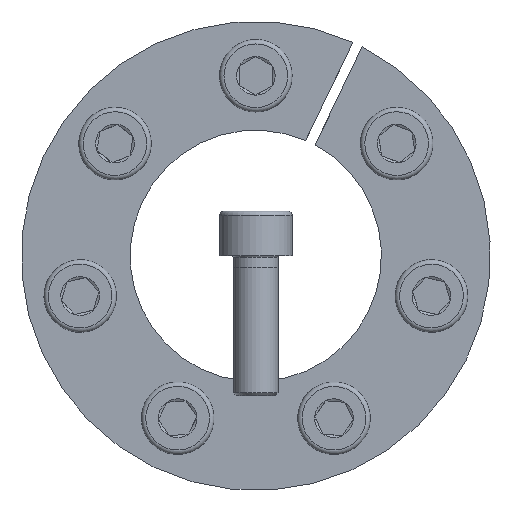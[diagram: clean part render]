
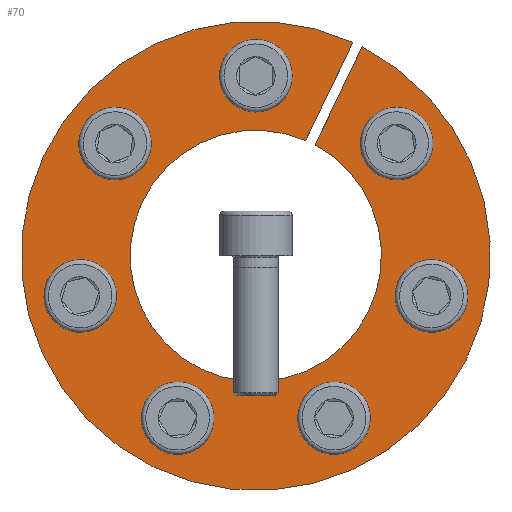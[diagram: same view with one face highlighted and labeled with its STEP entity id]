
A CAD part, front view. The second image highlights one B-rep face of the part: STEP entity #70.
In plain terms, the highlighted planar face has unit normal (0, -1, 0).
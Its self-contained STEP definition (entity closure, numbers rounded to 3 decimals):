
#70 = ADVANCED_FACE( '', ( #154, #155, #156, #157, #158, #159, #160, #161 ), #162, .F. );
#154 = FACE_BOUND( '', #302, .T. );
#155 = FACE_BOUND( '', #303, .T. );
#156 = FACE_BOUND( '', #304, .T. );
#157 = FACE_BOUND( '', #305, .T. );
#158 = FACE_BOUND( '', #306, .T. );
#159 = FACE_BOUND( '', #307, .T. );
#160 = FACE_BOUND( '', #308, .T. );
#161 = FACE_OUTER_BOUND( '', #309, .T. );
#162 = PLANE( '', #310 );
#302 = EDGE_LOOP( '', ( #474 ) );
#303 = EDGE_LOOP( '', ( #475 ) );
#304 = EDGE_LOOP( '', ( #476 ) );
#305 = EDGE_LOOP( '', ( #477 ) );
#306 = EDGE_LOOP( '', ( #478 ) );
#307 = EDGE_LOOP( '', ( #479 ) );
#308 = EDGE_LOOP( '', ( #480 ) );
#309 = EDGE_LOOP( '', ( #481, #482, #483, #484 ) );
#310 = AXIS2_PLACEMENT_3D( '', #485, #486, #487 );
#474 = ORIENTED_EDGE( '', *, *, #752, .T. );
#475 = ORIENTED_EDGE( '', *, *, #753, .T. );
#476 = ORIENTED_EDGE( '', *, *, #754, .T. );
#477 = ORIENTED_EDGE( '', *, *, #755, .T. );
#478 = ORIENTED_EDGE( '', *, *, #756, .T. );
#479 = ORIENTED_EDGE( '', *, *, #757, .T. );
#480 = ORIENTED_EDGE( '', *, *, #758, .T. );
#481 = ORIENTED_EDGE( '', *, *, #759, .T. );
#482 = ORIENTED_EDGE( '', *, *, #760, .T. );
#483 = ORIENTED_EDGE( '', *, *, #761, .T. );
#484 = ORIENTED_EDGE( '', *, *, #762, .F. );
#485 = CARTESIAN_POINT( '', ( 0., 0., 42. ) );
#486 = DIRECTION( '', ( 0., 1., 0. ) );
#487 = DIRECTION( '', ( 0., 0., 1. ) );
#752 = EDGE_CURVE( '', #899, #899, #900, .T. );
#753 = EDGE_CURVE( '', #901, #901, #902, .T. );
#754 = EDGE_CURVE( '', #903, #903, #904, .T. );
#755 = EDGE_CURVE( '', #905, #905, #906, .T. );
#756 = EDGE_CURVE( '', #907, #907, #908, .T. );
#757 = EDGE_CURVE( '', #909, #909, #910, .T. );
#758 = EDGE_CURVE( '', #911, #911, #912, .T. );
#759 = EDGE_CURVE( '', #913, #914, #915, .T. );
#760 = EDGE_CURVE( '', #914, #916, #917, .T. );
#761 = EDGE_CURVE( '', #916, #918, #919, .T. );
#762 = EDGE_CURVE( '', #913, #918, #920, .T. );
#899 = VERTEX_POINT( '', #1176 );
#900 = CIRCLE( '', #1177, 4. );
#901 = VERTEX_POINT( '', #1178 );
#902 = CIRCLE( '', #1179, 4. );
#903 = VERTEX_POINT( '', #1180 );
#904 = CIRCLE( '', #1181, 4. );
#905 = VERTEX_POINT( '', #1182 );
#906 = CIRCLE( '', #1183, 4. );
#907 = VERTEX_POINT( '', #1184 );
#908 = CIRCLE( '', #1185, 4. );
#909 = VERTEX_POINT( '', #1186 );
#910 = CIRCLE( '', #1187, 4. );
#911 = VERTEX_POINT( '', #1188 );
#912 = CIRCLE( '', #1189, 4. );
#913 = VERTEX_POINT( '', #1190 );
#914 = VERTEX_POINT( '', #1191 );
#915 = LINE( '', #1192, #1193 );
#916 = VERTEX_POINT( '', #1194 );
#917 = CIRCLE( '', #1195, 42. );
#918 = VERTEX_POINT( '', #1196 );
#919 = LINE( '', #1197, #1198 );
#920 = CIRCLE( '', #1199, 22.5 );
#1176 = CARTESIAN_POINT( '', ( -22.72, 0., 23.235 ) );
#1177 = AXIS2_PLACEMENT_3D( '', #1371, #1372, #1373 );
#1178 = CARTESIAN_POINT( '', ( -17.597, 0., -27.321 ) );
#1179 = AXIS2_PLACEMENT_3D( '', #1374, #1375, #1376 );
#1180 = CARTESIAN_POINT( '', ( 30.551, 0., -11.076 ) );
#1181 = AXIS2_PLACEMENT_3D( '', #1377, #1378, #1379 );
#1182 = CARTESIAN_POINT( '', ( 4., 0., 32.25 ) );
#1183 = AXIS2_PLACEMENT_3D( '', #1380, #1381, #1382 );
#1184 = CARTESIAN_POINT( '', ( 27.708, 0., 16.98 ) );
#1185 = AXIS2_PLACEMENT_3D( '', #1383, #1384, #1385 );
#1186 = CARTESIAN_POINT( '', ( 10.389, 0., -30.792 ) );
#1187 = AXIS2_PLACEMENT_3D( '', #1386, #1387, #1388 );
#1188 = CARTESIAN_POINT( '', ( -32.332, 0., -3.277 ) );
#1189 = AXIS2_PLACEMENT_3D( '', #1389, #1390, #1391 );
#1190 = CARTESIAN_POINT( '', ( 8.909, 0., 20.661 ) );
#1191 = CARTESIAN_POINT( '', ( 17.374, 0., 38.238 ) );
#1192 = CARTESIAN_POINT( '', ( 8.909, 0., 20.661 ) );
#1193 = VECTOR( '', #1392, 1000. );
#1194 = CARTESIAN_POINT( '', ( 19.063, 0., 37.424 ) );
#1195 = AXIS2_PLACEMENT_3D( '', #1393, #1394, #1395 );
#1196 = CARTESIAN_POINT( '', ( 10.599, 0., 19.847 ) );
#1197 = CARTESIAN_POINT( '', ( 19.068, 0., 37.434 ) );
#1198 = VECTOR( '', #1396, 1000. );
#1199 = AXIS2_PLACEMENT_3D( '', #1397, #1398, #1399 );
#1371 = CARTESIAN_POINT( '', ( -25.214, 0., 20.108 ) );
#1372 = DIRECTION( '', ( 0., 1., 0. ) );
#1373 = DIRECTION( '', ( 0.623, 0., 0.782 ) );
#1374 = CARTESIAN_POINT( '', ( -13.993, 0., -29.056 ) );
#1375 = DIRECTION( '', ( 0., 1., 0. ) );
#1376 = DIRECTION( '', ( -0.901, 0., 0.434 ) );
#1377 = CARTESIAN_POINT( '', ( 31.441, 0., -7.176 ) );
#1378 = DIRECTION( '', ( 0., 1., 0. ) );
#1379 = DIRECTION( '', ( -0.223, 0., -0.975 ) );
#1380 = CARTESIAN_POINT( '', ( 0., 0., 32.25 ) );
#1381 = DIRECTION( '', ( 0., 1., 0. ) );
#1382 = DIRECTION( '', ( 1., 0., 0. ) );
#1383 = CARTESIAN_POINT( '', ( 25.214, 0., 20.108 ) );
#1384 = DIRECTION( '', ( 0., 1., 0. ) );
#1385 = DIRECTION( '', ( 0.623, 0., -0.782 ) );
#1386 = CARTESIAN_POINT( '', ( 13.993, 0., -29.056 ) );
#1387 = DIRECTION( '', ( 0., 1., 0. ) );
#1388 = DIRECTION( '', ( -0.901, 0., -0.434 ) );
#1389 = CARTESIAN_POINT( '', ( -31.441, 0., -7.176 ) );
#1390 = DIRECTION( '', ( 0., 1., 0. ) );
#1391 = DIRECTION( '', ( -0.223, 0., 0.975 ) );
#1392 = DIRECTION( '', ( 0.434, 0., 0.901 ) );
#1393 = CARTESIAN_POINT( '', ( 0., 0., 0. ) );
#1394 = DIRECTION( '', ( 0., -1., 0. ) );
#1395 = DIRECTION( '', ( 0., 0., -1. ) );
#1396 = DIRECTION( '', ( -0.434, 0., -0.901 ) );
#1397 = CARTESIAN_POINT( '', ( 0., 0., 0. ) );
#1398 = DIRECTION( '', ( 0., -1., 0. ) );
#1399 = DIRECTION( '', ( 0., 0., -1. ) );
